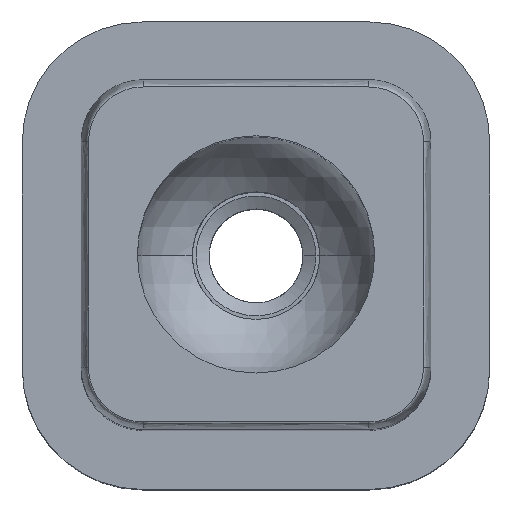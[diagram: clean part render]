
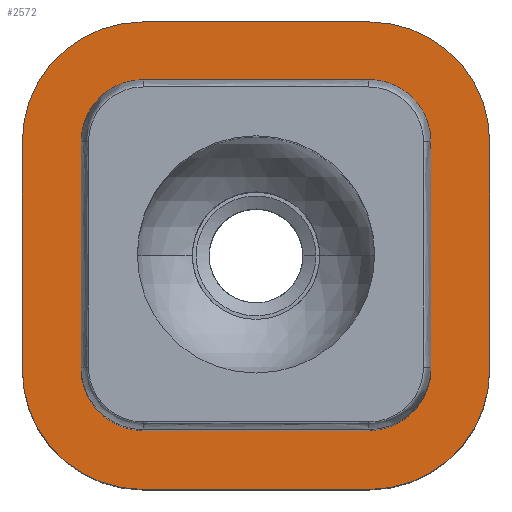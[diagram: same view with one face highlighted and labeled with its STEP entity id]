
A CAD part, top view. The second image highlights one B-rep face of the part: STEP entity #2572.
In plain terms, the highlighted planar face has unit normal (0, 0, 1).
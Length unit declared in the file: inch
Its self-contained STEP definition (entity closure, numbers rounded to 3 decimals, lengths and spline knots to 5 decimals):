
#2 = CARTESIAN_POINT ( 'NONE',  ( -0.4875, -0.4875, 0. ) ) ;
#18 = LINE ( 'NONE', #4278, #2945 ) ;
#87 = PLANE ( 'NONE',  #2011 ) ;
#97 = CARTESIAN_POINT ( 'NONE',  ( 0.365, 0.235, 0. ) ) ;
#136 = DIRECTION ( 'NONE',  ( 1., 0., 0. ) ) ;
#180 = EDGE_CURVE ( 'NONE', #3840, #522, #4175, .T. ) ;
#216 = AXIS2_PLACEMENT_3D ( 'NONE', #866, #3519, #1240 ) ;
#274 = CARTESIAN_POINT ( 'NONE',  ( 0.4875, -0.2375, 0. ) ) ;
#283 = AXIS2_PLACEMENT_3D ( 'NONE', #861, #3513, #1235 ) ;
#326 = VECTOR ( 'NONE', #1069, 39.37008 ) ;
#349 = EDGE_CURVE ( 'NONE', #1689, #1823, #18, .T. ) ;
#426 = LINE ( 'NONE', #2958, #326 ) ;
#452 = DIRECTION ( 'NONE',  ( 0., 0., -1. ) ) ;
#469 = CARTESIAN_POINT ( 'NONE',  ( 0., 0., 0. ) ) ;
#480 = CARTESIAN_POINT ( 'NONE',  ( 0.2375, 0.4875, 0. ) ) ;
#488 = AXIS2_PLACEMENT_3D ( 'NONE', #2725, #452, #3112 ) ;
#522 = VERTEX_POINT ( 'NONE', #1659 ) ;
#628 = LINE ( 'NONE', #2307, #4530 ) ;
#683 = CIRCLE ( 'NONE', #488, 0.25 ) ;
#713 = EDGE_CURVE ( 'NONE', #1730, #2790, #2687, .T. ) ;
#740 = DIRECTION ( 'NONE',  ( 0., 0., 1. ) ) ;
#754 = ORIENTED_EDGE ( 'NONE', *, *, #3404, .T. ) ;
#791 = DIRECTION ( 'NONE',  ( 0., 1., 0. ) ) ;
#860 = DIRECTION ( 'NONE',  ( -1., 0., 0. ) ) ;
#861 = CARTESIAN_POINT ( 'NONE',  ( -0.2375, -0.2375, 0. ) ) ;
#866 = CARTESIAN_POINT ( 'NONE',  ( -0.235, -0.235, 0. ) ) ;
#909 = VECTOR ( 'NONE', #3077, 39.37008 ) ;
#1023 = VERTEX_POINT ( 'NONE', #4822 ) ;
#1025 = EDGE_CURVE ( 'NONE', #3840, #1182, #426, .T. ) ;
#1069 = DIRECTION ( 'NONE',  ( -1., 0., 0. ) ) ;
#1110 = CARTESIAN_POINT ( 'NONE',  ( 0.235, 0.365, 0. ) ) ;
#1182 = VERTEX_POINT ( 'NONE', #4763 ) ;
#1183 = DIRECTION ( 'NONE',  ( 1., 0., 0. ) ) ;
#1230 = EDGE_CURVE ( 'NONE', #3960, #3052, #4123, .T. ) ;
#1235 = DIRECTION ( 'NONE',  ( 1., 0., 0. ) ) ;
#1240 = DIRECTION ( 'NONE',  ( 1., 0., 0. ) ) ;
#1265 = LINE ( 'NONE', #2631, #3409 ) ;
#1339 = ORIENTED_EDGE ( 'NONE', *, *, #4657, .F. ) ;
#1371 = DIRECTION ( 'NONE',  ( 0., -1., 0. ) ) ;
#1376 = ORIENTED_EDGE ( 'NONE', *, *, #1874, .F. ) ;
#1423 = DIRECTION ( 'NONE',  ( 0., 0., -1. ) ) ;
#1480 = EDGE_LOOP ( 'NONE', ( #4710, #1878, #3669, #4073, #4629, #3010, #3659, #2244 ) ) ;
#1489 = CARTESIAN_POINT ( 'NONE',  ( 0.2375, -0.4875, 0. ) ) ;
#1514 = VERTEX_POINT ( 'NONE', #3123 ) ;
#1542 = CARTESIAN_POINT ( 'NONE',  ( 0.235, -0.235, 0. ) ) ;
#1549 = FACE_OUTER_BOUND ( 'NONE', #1480, .T. ) ;
#1618 = VERTEX_POINT ( 'NONE', #97 ) ;
#1623 = VERTEX_POINT ( 'NONE', #480 ) ;
#1659 = CARTESIAN_POINT ( 'NONE',  ( 0.365, -0.235, 0. ) ) ;
#1689 = VERTEX_POINT ( 'NONE', #3908 ) ;
#1730 = VERTEX_POINT ( 'NONE', #2025 ) ;
#1750 = VECTOR ( 'NONE', #791, 39.37008 ) ;
#1809 = CIRCLE ( 'NONE', #2123, 0.25 ) ;
#1823 = VERTEX_POINT ( 'NONE', #1110 ) ;
#1874 = EDGE_CURVE ( 'NONE', #1689, #4372, #2273, .T. ) ;
#1878 = ORIENTED_EDGE ( 'NONE', *, *, #713, .F. ) ;
#1882 = DIRECTION ( 'NONE',  ( 0., 1., 0. ) ) ;
#1909 = DIRECTION ( 'NONE',  ( -1., 0., 0. ) ) ;
#1926 = DIRECTION ( 'NONE',  ( 1., 0., 0. ) ) ;
#1948 = VERTEX_POINT ( 'NONE', #1489 ) ;
#1959 = EDGE_CURVE ( 'NONE', #2790, #3468, #1265, .T. ) ;
#2011 = AXIS2_PLACEMENT_3D ( 'NONE', #469, #3128, #860 ) ;
#2025 = CARTESIAN_POINT ( 'NONE',  ( -0.2375, -0.4875, 0. ) ) ;
#2123 = AXIS2_PLACEMENT_3D ( 'NONE', #3701, #1423, #4075 ) ;
#2186 = CARTESIAN_POINT ( 'NONE',  ( 0.2375, 0.2375, 0. ) ) ;
#2231 = EDGE_CURVE ( 'NONE', #1618, #522, #4835, .T. ) ;
#2244 = ORIENTED_EDGE ( 'NONE', *, *, #2339, .F. ) ;
#2273 = CIRCLE ( 'NONE', #4235, 0.13 ) ;
#2276 = VECTOR ( 'NONE', #1909, 39.37008 ) ;
#2295 = CARTESIAN_POINT ( 'NONE',  ( -0.365, -0.365, 0. ) ) ;
#2307 = CARTESIAN_POINT ( 'NONE',  ( -0.4875, 0.4875, 0. ) ) ;
#2312 = CARTESIAN_POINT ( 'NONE',  ( 0.365, -0.365, 0. ) ) ;
#2339 = EDGE_CURVE ( 'NONE', #3468, #1514, #1809, .T. ) ;
#2391 = EDGE_LOOP ( 'NONE', ( #3801, #1339, #754, #1376, #2819, #4662, #2982, #3421 ) ) ;
#2398 = CARTESIAN_POINT ( 'NONE',  ( -0.4875, -0.2375, 0. ) ) ;
#2413 = DIRECTION ( 'NONE',  ( 0., 0., 1. ) ) ;
#2493 = CARTESIAN_POINT ( 'NONE',  ( 0.4875, -0.4875, 0. ) ) ;
#2517 = EDGE_CURVE ( 'NONE', #3052, #1948, #683, .T. ) ;
#2565 = DIRECTION ( 'NONE',  ( 1., 0., 0. ) ) ;
#2572 = ADVANCED_FACE ( 'NONE', ( #1549, #3459 ), #87, .F. ) ;
#2631 = CARTESIAN_POINT ( 'NONE',  ( -0.4875, -0.4875, 0. ) ) ;
#2635 = CARTESIAN_POINT ( 'NONE',  ( 0.4875, 0.2375, 0. ) ) ;
#2687 = CIRCLE ( 'NONE', #283, 0.25 ) ;
#2725 = CARTESIAN_POINT ( 'NONE',  ( 0.2375, -0.2375, 0. ) ) ;
#2746 = AXIS2_PLACEMENT_3D ( 'NONE', #2186, #4831, #2565 ) ;
#2790 = VERTEX_POINT ( 'NONE', #2398 ) ;
#2796 = CARTESIAN_POINT ( 'NONE',  ( 0.235, -0.365, 0. ) ) ;
#2819 = ORIENTED_EDGE ( 'NONE', *, *, #349, .T. ) ;
#2945 = VECTOR ( 'NONE', #3099, 39.37008 ) ;
#2958 = CARTESIAN_POINT ( 'NONE',  ( -0.365, -0.365, 0. ) ) ;
#2982 = ORIENTED_EDGE ( 'NONE', *, *, #2231, .T. ) ;
#2998 = VECTOR ( 'NONE', #1371, 39.37008 ) ;
#3010 = ORIENTED_EDGE ( 'NONE', *, *, #4900, .F. ) ;
#3015 = CARTESIAN_POINT ( 'NONE',  ( -0.235, 0.235, 0. ) ) ;
#3052 = VERTEX_POINT ( 'NONE', #274 ) ;
#3077 = DIRECTION ( 'NONE',  ( 0., -1., 0. ) ) ;
#3099 = DIRECTION ( 'NONE',  ( 1., 0., 0. ) ) ;
#3112 = DIRECTION ( 'NONE',  ( 1., 0., 0. ) ) ;
#3123 = CARTESIAN_POINT ( 'NONE',  ( -0.2375, 0.4875, 0. ) ) ;
#3128 = DIRECTION ( 'NONE',  ( 0., 0., -1. ) ) ;
#3397 = DIRECTION ( 'NONE',  ( 1., 0., 0. ) ) ;
#3404 = EDGE_CURVE ( 'NONE', #1023, #4372, #4774, .T. ) ;
#3409 = VECTOR ( 'NONE', #1882, 39.37008 ) ;
#3414 = CIRCLE ( 'NONE', #3451, 0.13 ) ;
#3421 = ORIENTED_EDGE ( 'NONE', *, *, #180, .F. ) ;
#3451 = AXIS2_PLACEMENT_3D ( 'NONE', #4680, #2413, #136 ) ;
#3459 = FACE_BOUND ( 'NONE', #2391, .T. ) ;
#3468 = VERTEX_POINT ( 'NONE', #4202 ) ;
#3513 = DIRECTION ( 'NONE',  ( 0., 0., -1. ) ) ;
#3519 = DIRECTION ( 'NONE',  ( 0., 0., 1. ) ) ;
#3632 = EDGE_CURVE ( 'NONE', #1514, #1623, #628, .T. ) ;
#3659 = ORIENTED_EDGE ( 'NONE', *, *, #3632, .F. ) ;
#3669 = ORIENTED_EDGE ( 'NONE', *, *, #4110, .F. ) ;
#3701 = CARTESIAN_POINT ( 'NONE',  ( -0.2375, 0.2375, 0. ) ) ;
#3720 = CIRCLE ( 'NONE', #216, 0.13 ) ;
#3758 = EDGE_CURVE ( 'NONE', #1618, #1823, #3414, .T. ) ;
#3801 = ORIENTED_EDGE ( 'NONE', *, *, #1025, .T. ) ;
#3840 = VERTEX_POINT ( 'NONE', #2796 ) ;
#3846 = CARTESIAN_POINT ( 'NONE',  ( -0.365, 0.235, 0. ) ) ;
#3908 = CARTESIAN_POINT ( 'NONE',  ( -0.235, 0.365, 0. ) ) ;
#3960 = VERTEX_POINT ( 'NONE', #2635 ) ;
#4073 = ORIENTED_EDGE ( 'NONE', *, *, #2517, .F. ) ;
#4075 = DIRECTION ( 'NONE',  ( 1., 0., 0. ) ) ;
#4110 = EDGE_CURVE ( 'NONE', #1948, #1730, #4173, .T. ) ;
#4118 = AXIS2_PLACEMENT_3D ( 'NONE', #1542, #4197, #1926 ) ;
#4123 = LINE ( 'NONE', #2493, #2998 ) ;
#4173 = LINE ( 'NONE', #2, #2276 ) ;
#4175 = CIRCLE ( 'NONE', #4118, 0.13 ) ;
#4197 = DIRECTION ( 'NONE',  ( 0., 0., 1. ) ) ;
#4202 = CARTESIAN_POINT ( 'NONE',  ( -0.4875, 0.2375, 0. ) ) ;
#4223 = CIRCLE ( 'NONE', #2746, 0.25 ) ;
#4235 = AXIS2_PLACEMENT_3D ( 'NONE', #3015, #740, #3397 ) ;
#4278 = CARTESIAN_POINT ( 'NONE',  ( -0.365, 0.365, 0. ) ) ;
#4372 = VERTEX_POINT ( 'NONE', #3846 ) ;
#4530 = VECTOR ( 'NONE', #1183, 39.37008 ) ;
#4629 = ORIENTED_EDGE ( 'NONE', *, *, #1230, .F. ) ;
#4657 = EDGE_CURVE ( 'NONE', #1023, #1182, #3720, .T. ) ;
#4662 = ORIENTED_EDGE ( 'NONE', *, *, #3758, .F. ) ;
#4680 = CARTESIAN_POINT ( 'NONE',  ( 0.235, 0.235, 0. ) ) ;
#4710 = ORIENTED_EDGE ( 'NONE', *, *, #1959, .F. ) ;
#4763 = CARTESIAN_POINT ( 'NONE',  ( -0.235, -0.365, 0. ) ) ;
#4774 = LINE ( 'NONE', #2295, #1750 ) ;
#4822 = CARTESIAN_POINT ( 'NONE',  ( -0.365, -0.235, 0. ) ) ;
#4831 = DIRECTION ( 'NONE',  ( 0., 0., -1. ) ) ;
#4835 = LINE ( 'NONE', #2312, #909 ) ;
#4900 = EDGE_CURVE ( 'NONE', #1623, #3960, #4223, .T. ) ;
